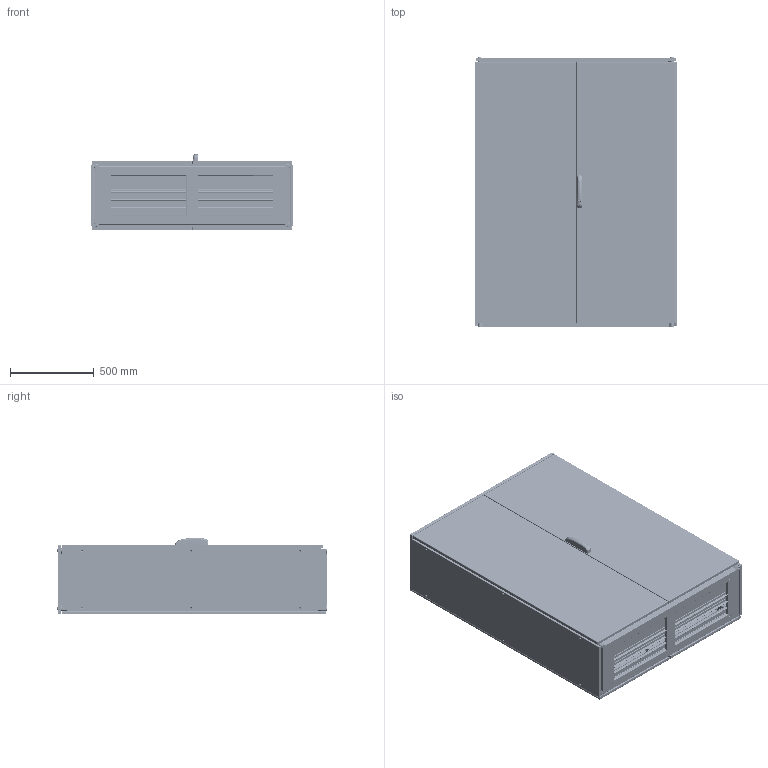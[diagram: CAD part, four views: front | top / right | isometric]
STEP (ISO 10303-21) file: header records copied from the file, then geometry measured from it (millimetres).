
FILE_DESCRIPTION (( 'STEP AP203' ), '1' );
FILE_NAME ('ENUX121604PR.STEP', '2025-05-29T13:50:01', ( '' ), ( '' ), 'SwSTEP 2.0', 'SolidWorks 2022', '' );
FILE_SCHEMA (( 'CONFIG_CONTROL_DESIGN' ));
Length unit declared in the file: millimetre
Products named in the file (14): AR_ENUX_Vite_tetto; AR_ENUX_Tegolino_1200x0100; AR_ENUX_Porta_IB_2.0_1200x1600_ANT; AR_ENUX_Tetto_1200x0400; AR_ENUX_Struttura_1200x1600x0400; AR_ENUX_Fianco_0400x1600_DX; AR_ENUX_Porta_CB_2.0_1200x1600_ANT_DX; AR_ENUX_montaggio_porta_IB_2.0_1200x1600_ANT_DX; AR_ENUX_Fianco_0400x1600_SX; AR_ENUX_nuova_maniglia_mesan; AR_ENUX_Retro_IB_1200x1600; AR_ENUX_Tegolino_1200x0050; ENUX121604PR; AR_ENUX_Retro_CB_1200x1600
Assembly tree (20 placements, depth 3):
  ENUX121604PR
    AR_ENUX_Struttura_1200x1600x0400
    AR_ENUX_Fianco_0400x1600_SX
    AR_ENUX_Fianco_0400x1600_DX
    AR_ENUX_Tetto_1200x0400
    AR_ENUX_Vite_tetto  x4
    AR_ENUX_Tegolino_1200x0050  x4
    AR_ENUX_Tegolino_1200x0100  x2
    AR_ENUX_Retro_CB_1200x1600
    AR_ENUX_Retro_IB_1200x1600
    AR_ENUX_montaggio_porta_IB_2.0_1200x1600_ANT_DX
      AR_ENUX_Porta_IB_2.0_1200x1600_ANT
      AR_ENUX_nuova_maniglia_mesan
    AR_ENUX_Porta_CB_2.0_1200x1600_ANT_DX
Bounding box: 1212 x 1615.1 x 457 mm (x, y, z)
Volume: 14068312.1 mm3; surface area: 19546763.3 mm2
Topology: 19 solids, 20 shells, 9442 faces, 26575 edges, 17075 vertices
Faces by surface type: plane 5012, cylinder 3497, bspline 369, torus 278, cone 194, sphere 92
Entity records: 341338 total; most frequent: CARTESIAN_POINT 93193, ORIENTED_EDGE 51376, DIRECTION 49390, EDGE_CURVE 25688, VECTOR 17354, LINE 17354, VERTEX_POINT 16677, AXIS2_PLACEMENT_3D 16018
